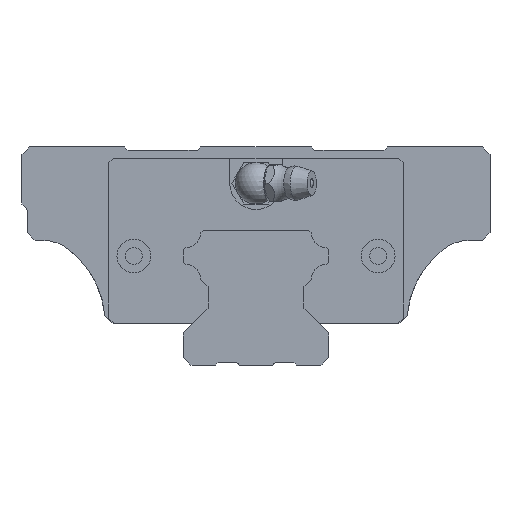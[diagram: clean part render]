
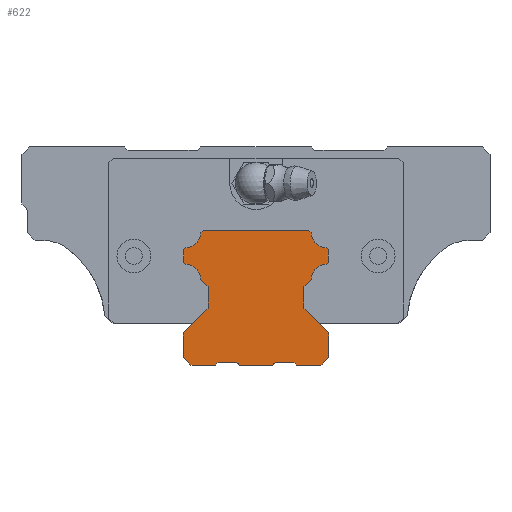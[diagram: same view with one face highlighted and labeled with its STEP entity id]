
A CAD part, front view. The second image highlights one B-rep face of the part: STEP entity #622.
In plain terms, the highlighted planar face has unit normal (0, -1, 0).
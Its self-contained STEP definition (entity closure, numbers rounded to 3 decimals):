
#388=CIRCLE('',#4540,3.1);
#390=CIRCLE('',#4546,3.1);
#401=CIRCLE('',#4579,3.1);
#403=CIRCLE('',#4585,3.1);
#622=ADVANCED_FACE('',(#992),#792,.T.);
#792=PLANE('',#4587);
#992=FACE_OUTER_BOUND('',#1248,.T.);
#1248=EDGE_LOOP('',(#2322,#2323,#2324,#2325,#2326,#2327,#2328,#2329,#2330,
#2331,#2332,#2333,#2334,#2335,#2336,#2337,#2338,#2339,#2340,#2341,#2342,
#2343,#2344,#2345,#2346,#2347,#2348,#2349,#2350,#2351,#2352,#2353));
#2322=ORIENTED_EDGE('',*,*,#3308,.T.);
#2323=ORIENTED_EDGE('',*,*,#3316,.F.);
#2324=ORIENTED_EDGE('',*,*,#3319,.F.);
#2325=ORIENTED_EDGE('',*,*,#3322,.F.);
#2326=ORIENTED_EDGE('',*,*,#3325,.F.);
#2327=ORIENTED_EDGE('',*,*,#3328,.T.);
#2328=ORIENTED_EDGE('',*,*,#3331,.T.);
#2329=ORIENTED_EDGE('',*,*,#3334,.F.);
#2330=ORIENTED_EDGE('',*,*,#3337,.T.);
#2331=ORIENTED_EDGE('',*,*,#3340,.T.);
#2332=ORIENTED_EDGE('',*,*,#3343,.F.);
#2333=ORIENTED_EDGE('',*,*,#3346,.T.);
#2334=ORIENTED_EDGE('',*,*,#3349,.T.);
#2335=ORIENTED_EDGE('',*,*,#3352,.F.);
#2336=ORIENTED_EDGE('',*,*,#3355,.T.);
#2337=ORIENTED_EDGE('',*,*,#3359,.T.);
#2338=ORIENTED_EDGE('',*,*,#3298,.F.);
#2339=ORIENTED_EDGE('',*,*,#3366,.T.);
#2340=ORIENTED_EDGE('',*,*,#3305,.T.);
#2341=ORIENTED_EDGE('',*,*,#3374,.F.);
#2342=ORIENTED_EDGE('',*,*,#3379,.F.);
#2343=ORIENTED_EDGE('',*,*,#3382,.T.);
#2344=ORIENTED_EDGE('',*,*,#3385,.F.);
#2345=ORIENTED_EDGE('',*,*,#3388,.F.);
#2346=ORIENTED_EDGE('',*,*,#3391,.F.);
#2347=ORIENTED_EDGE('',*,*,#3394,.F.);
#2348=ORIENTED_EDGE('',*,*,#3397,.F.);
#2349=ORIENTED_EDGE('',*,*,#3400,.F.);
#2350=ORIENTED_EDGE('',*,*,#3403,.F.);
#2351=ORIENTED_EDGE('',*,*,#3406,.F.);
#2352=ORIENTED_EDGE('',*,*,#3409,.T.);
#2353=ORIENTED_EDGE('',*,*,#3411,.F.);
#2760=VERTEX_POINT('',#6923);
#2761=VERTEX_POINT('',#6925);
#2762=VERTEX_POINT('',#6932);
#2765=VERTEX_POINT('',#6937);
#2768=VERTEX_POINT('',#6944);
#2769=VERTEX_POINT('',#6946);
#2775=VERTEX_POINT('',#6960);
#2777=VERTEX_POINT('',#6966);
#2779=VERTEX_POINT('',#6972);
#2781=VERTEX_POINT('',#6978);
#2783=VERTEX_POINT('',#6984);
#2785=VERTEX_POINT('',#6990);
#2787=VERTEX_POINT('',#6996);
#2789=VERTEX_POINT('',#7002);
#2791=VERTEX_POINT('',#7008);
#2793=VERTEX_POINT('',#7014);
#2795=VERTEX_POINT('',#7020);
#2797=VERTEX_POINT('',#7026);
#2799=VERTEX_POINT('',#7032);
#2801=VERTEX_POINT('',#7038);
#2807=VERTEX_POINT('',#7068);
#2809=VERTEX_POINT('',#7076);
#2811=VERTEX_POINT('',#7082);
#2813=VERTEX_POINT('',#7088);
#2815=VERTEX_POINT('',#7094);
#2817=VERTEX_POINT('',#7100);
#2819=VERTEX_POINT('',#7106);
#2821=VERTEX_POINT('',#7112);
#2823=VERTEX_POINT('',#7118);
#2825=VERTEX_POINT('',#7124);
#2827=VERTEX_POINT('',#7130);
#2829=VERTEX_POINT('',#7136);
#3298=EDGE_CURVE('',#2760,#2761,#3741,.T.);
#3305=EDGE_CURVE('',#2762,#2765,#3745,.T.);
#3308=EDGE_CURVE('',#2769,#2768,#3748,.T.);
#3316=EDGE_CURVE('',#2775,#2768,#3752,.T.);
#3319=EDGE_CURVE('',#2777,#2775,#3755,.T.);
#3322=EDGE_CURVE('',#2779,#2777,#388,.T.);
#3325=EDGE_CURVE('',#2781,#2779,#3759,.T.);
#3328=EDGE_CURVE('',#2781,#2783,#3762,.T.);
#3331=EDGE_CURVE('',#2783,#2785,#3765,.T.);
#3334=EDGE_CURVE('',#2787,#2785,#390,.T.);
#3337=EDGE_CURVE('',#2787,#2789,#3769,.T.);
#3340=EDGE_CURVE('',#2789,#2791,#3772,.T.);
#3343=EDGE_CURVE('',#2793,#2791,#3775,.T.);
#3346=EDGE_CURVE('',#2793,#2795,#3778,.T.);
#3349=EDGE_CURVE('',#2795,#2797,#3781,.T.);
#3352=EDGE_CURVE('',#2799,#2797,#3784,.T.);
#3355=EDGE_CURVE('',#2799,#2801,#3787,.T.);
#3359=EDGE_CURVE('',#2801,#2761,#3788,.T.);
#3366=EDGE_CURVE('',#2760,#2762,#3792,.T.);
#3374=EDGE_CURVE('',#2807,#2765,#3797,.T.);
#3379=EDGE_CURVE('',#2809,#2807,#3800,.T.);
#3382=EDGE_CURVE('',#2809,#2811,#3803,.T.);
#3385=EDGE_CURVE('',#2813,#2811,#3806,.T.);
#3388=EDGE_CURVE('',#2815,#2813,#3809,.T.);
#3391=EDGE_CURVE('',#2817,#2815,#3812,.T.);
#3394=EDGE_CURVE('',#2819,#2817,#3815,.T.);
#3397=EDGE_CURVE('',#2821,#2819,#3818,.T.);
#3400=EDGE_CURVE('',#2823,#2821,#401,.T.);
#3403=EDGE_CURVE('',#2825,#2823,#3822,.T.);
#3406=EDGE_CURVE('',#2827,#2825,#3825,.T.);
#3409=EDGE_CURVE('',#2827,#2829,#3828,.T.);
#3411=EDGE_CURVE('',#2769,#2829,#403,.T.);
#3741=LINE('',#6924,#4150);
#3745=LINE('',#6938,#4154);
#3748=LINE('',#6945,#4157);
#3752=LINE('',#6961,#4161);
#3755=LINE('',#6967,#4164);
#3759=LINE('',#6979,#4168);
#3762=LINE('',#6985,#4171);
#3765=LINE('',#6991,#4174);
#3769=LINE('',#7003,#4178);
#3772=LINE('',#7009,#4181);
#3775=LINE('',#7015,#4184);
#3778=LINE('',#7021,#4187);
#3781=LINE('',#7027,#4190);
#3784=LINE('',#7033,#4193);
#3787=LINE('',#7039,#4196);
#3788=LINE('',#7044,#4197);
#3792=LINE('',#7055,#4201);
#3797=LINE('',#7069,#4206);
#3800=LINE('',#7077,#4209);
#3803=LINE('',#7083,#4212);
#3806=LINE('',#7089,#4215);
#3809=LINE('',#7095,#4218);
#3812=LINE('',#7101,#4221);
#3815=LINE('',#7107,#4224);
#3818=LINE('',#7113,#4227);
#3822=LINE('',#7125,#4231);
#3825=LINE('',#7131,#4234);
#3828=LINE('',#7137,#4237);
#4150=VECTOR('',#5506,1.);
#4154=VECTOR('',#5520,1.);
#4157=VECTOR('',#5525,1.);
#4161=VECTOR('',#5539,1.);
#4164=VECTOR('',#5544,1.);
#4168=VECTOR('',#5556,1.);
#4171=VECTOR('',#5561,1.);
#4174=VECTOR('',#5566,1.);
#4178=VECTOR('',#5578,1.);
#4181=VECTOR('',#5583,1.);
#4184=VECTOR('',#5588,1.);
#4187=VECTOR('',#5593,1.);
#4190=VECTOR('',#5598,1.);
#4193=VECTOR('',#5603,1.);
#4196=VECTOR('',#5608,1.);
#4197=VECTOR('',#5617,1.);
#4201=VECTOR('',#5631,1.);
#4206=VECTOR('',#5646,1.);
#4209=VECTOR('',#5655,1.);
#4212=VECTOR('',#5660,1.);
#4215=VECTOR('',#5665,1.);
#4218=VECTOR('',#5670,1.);
#4221=VECTOR('',#5675,1.);
#4224=VECTOR('',#5680,1.);
#4227=VECTOR('',#5685,1.);
#4231=VECTOR('',#5697,1.);
#4234=VECTOR('',#5702,1.);
#4237=VECTOR('',#5707,1.);
#4540=AXIS2_PLACEMENT_3D('',#6973,#5550,#5551);
#4546=AXIS2_PLACEMENT_3D('',#6997,#5572,#5573);
#4579=AXIS2_PLACEMENT_3D('',#7119,#5691,#5692);
#4585=AXIS2_PLACEMENT_3D('',#7140,#5712,#5713);
#4587=AXIS2_PLACEMENT_3D('',#7142,#5716,#5717);
#5506=DIRECTION('',(-0.707,0.,0.707));
#5520=DIRECTION('',(0.707,0.,0.707));
#5525=DIRECTION('',(-0.707,0.,0.707));
#5539=DIRECTION('',(1.,0.,0.));
#5544=DIRECTION('',(0.707,0.,0.707));
#5550=DIRECTION('',(0.,-1.,0.));
#5551=DIRECTION('',(1.,0.,0.));
#5556=DIRECTION('',(0.707,0.,0.707));
#5561=DIRECTION('',(0.,0.,-1.));
#5566=DIRECTION('',(0.707,0.,-0.707));
#5572=DIRECTION('',(0.,-1.,0.));
#5573=DIRECTION('',(1.,0.,0.));
#5578=DIRECTION('',(0.707,0.,-0.707));
#5583=DIRECTION('',(0.,0.,-1.));
#5588=DIRECTION('',(0.707,0.,0.707));
#5593=DIRECTION('',(0.,0.,-1.));
#5598=DIRECTION('',(0.707,0.,-0.707));
#5603=DIRECTION('',(-1.,0.,0.));
#5608=DIRECTION('',(0.707,0.,0.707));
#5617=DIRECTION('',(1.,0.,0.));
#5631=DIRECTION('',(1.,0.,0.));
#5646=DIRECTION('',(-1.,0.,0.));
#5655=DIRECTION('',(-0.707,0.,0.707));
#5660=DIRECTION('',(1.,0.,0.));
#5665=DIRECTION('',(-0.707,0.,-0.707));
#5670=DIRECTION('',(0.,0.,-1.));
#5675=DIRECTION('',(0.707,0.,-0.707));
#5680=DIRECTION('',(0.,0.,-1.));
#5685=DIRECTION('',(-0.707,0.,-0.707));
#5691=DIRECTION('',(0.,-1.,0.));
#5692=DIRECTION('',(1.,0.,0.));
#5697=DIRECTION('',(-0.707,0.,-0.707));
#5702=DIRECTION('',(0.,0.,-1.));
#5707=DIRECTION('',(-0.707,0.,0.707));
#5712=DIRECTION('',(0.,-1.,0.));
#5713=DIRECTION('',(1.,0.,0.));
#5716=DIRECTION('',(0.,-1.,0.));
#5717=DIRECTION('',(0.,0.,-1.));
#6923=CARTESIAN_POINT('',(-3.2,-167.7,-43.7));
#6924=CARTESIAN_POINT('',(-3.2,-167.7,-43.7));
#6925=CARTESIAN_POINT('',(-3.7,-167.7,-43.2));
#6932=CARTESIAN_POINT('',(3.2,-167.7,-43.7));
#6937=CARTESIAN_POINT('',(3.7,-167.7,-43.2));
#6938=CARTESIAN_POINT('',(3.2,-167.7,-43.7));
#6944=CARTESIAN_POINT('',(10.171,-167.7,-17.77));
#6945=CARTESIAN_POINT('',(10.583,-167.7,-18.182));
#6946=CARTESIAN_POINT('',(10.583,-167.7,-18.182));
#6960=CARTESIAN_POINT('',(-10.171,-167.7,-17.77));
#6961=CARTESIAN_POINT('',(-10.171,-167.7,-17.77));
#6966=CARTESIAN_POINT('',(-10.583,-167.7,-18.182));
#6967=CARTESIAN_POINT('',(-10.583,-167.7,-18.182));
#6972=CARTESIAN_POINT('',(-13.518,-167.7,-21.117));
#6973=CARTESIAN_POINT('',(-13.679,-167.7,-18.021));
#6978=CARTESIAN_POINT('',(-13.93,-167.7,-21.529));
#6979=CARTESIAN_POINT('',(-13.93,-167.7,-21.529));
#6984=CARTESIAN_POINT('',(-13.93,-167.7,-23.871));
#6985=CARTESIAN_POINT('',(-13.93,-167.7,-21.529));
#6990=CARTESIAN_POINT('',(-13.518,-167.7,-24.283));
#6991=CARTESIAN_POINT('',(-13.93,-167.7,-23.871));
#6996=CARTESIAN_POINT('',(-10.583,-167.7,-27.218));
#6997=CARTESIAN_POINT('',(-13.679,-167.7,-27.379));
#7002=CARTESIAN_POINT('',(-9.23,-167.7,-28.571));
#7003=CARTESIAN_POINT('',(-10.583,-167.7,-27.218));
#7008=CARTESIAN_POINT('',(-9.23,-167.7,-32.729));
#7009=CARTESIAN_POINT('',(-9.23,-167.7,-28.571));
#7014=CARTESIAN_POINT('',(-14.,-167.7,-37.499));
#7015=CARTESIAN_POINT('',(-14.,-167.7,-37.499));
#7020=CARTESIAN_POINT('',(-14.,-167.7,-42.2));
#7021=CARTESIAN_POINT('',(-14.,-167.7,-37.499));
#7026=CARTESIAN_POINT('',(-12.5,-167.7,-43.7));
#7027=CARTESIAN_POINT('',(-14.,-167.7,-42.2));
#7032=CARTESIAN_POINT('',(-7.8,-167.7,-43.7));
#7033=CARTESIAN_POINT('',(-7.8,-167.7,-43.7));
#7038=CARTESIAN_POINT('',(-7.3,-167.7,-43.2));
#7039=CARTESIAN_POINT('',(-7.8,-167.7,-43.7));
#7044=CARTESIAN_POINT('',(-7.3,-167.7,-43.2));
#7055=CARTESIAN_POINT('',(-3.2,-167.7,-43.7));
#7068=CARTESIAN_POINT('',(7.3,-167.7,-43.2));
#7069=CARTESIAN_POINT('',(7.3,-167.7,-43.2));
#7076=CARTESIAN_POINT('',(7.8,-167.7,-43.7));
#7077=CARTESIAN_POINT('',(7.8,-167.7,-43.7));
#7082=CARTESIAN_POINT('',(12.5,-167.7,-43.7));
#7083=CARTESIAN_POINT('',(7.8,-167.7,-43.7));
#7088=CARTESIAN_POINT('',(14.,-167.7,-42.2));
#7089=CARTESIAN_POINT('',(14.,-167.7,-42.2));
#7094=CARTESIAN_POINT('',(14.,-167.7,-37.499));
#7095=CARTESIAN_POINT('',(14.,-167.7,-37.499));
#7100=CARTESIAN_POINT('',(9.23,-167.7,-32.729));
#7101=CARTESIAN_POINT('',(9.23,-167.7,-32.729));
#7106=CARTESIAN_POINT('',(9.23,-167.7,-28.571));
#7107=CARTESIAN_POINT('',(9.23,-167.7,-28.571));
#7112=CARTESIAN_POINT('',(10.583,-167.7,-27.218));
#7113=CARTESIAN_POINT('',(10.583,-167.7,-27.218));
#7118=CARTESIAN_POINT('',(13.518,-167.7,-24.283));
#7119=CARTESIAN_POINT('',(13.679,-167.7,-27.379));
#7124=CARTESIAN_POINT('',(13.93,-167.7,-23.871));
#7125=CARTESIAN_POINT('',(13.93,-167.7,-23.871));
#7130=CARTESIAN_POINT('',(13.93,-167.7,-21.529));
#7131=CARTESIAN_POINT('',(13.93,-167.7,-21.529));
#7136=CARTESIAN_POINT('',(13.518,-167.7,-21.117));
#7137=CARTESIAN_POINT('',(13.93,-167.7,-21.529));
#7140=CARTESIAN_POINT('',(13.679,-167.7,-18.021));
#7142=CARTESIAN_POINT('',(-13.679,-167.7,-18.021));
